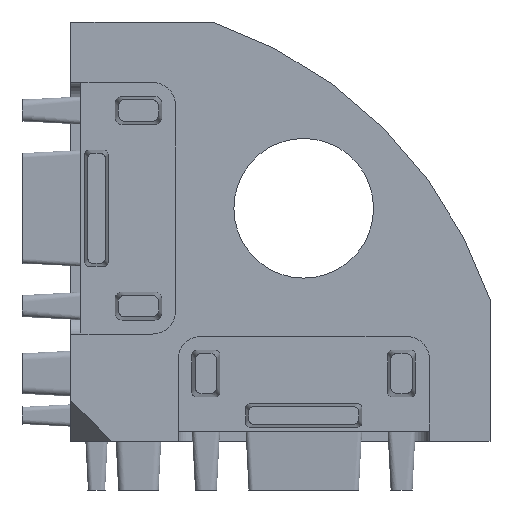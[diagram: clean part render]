
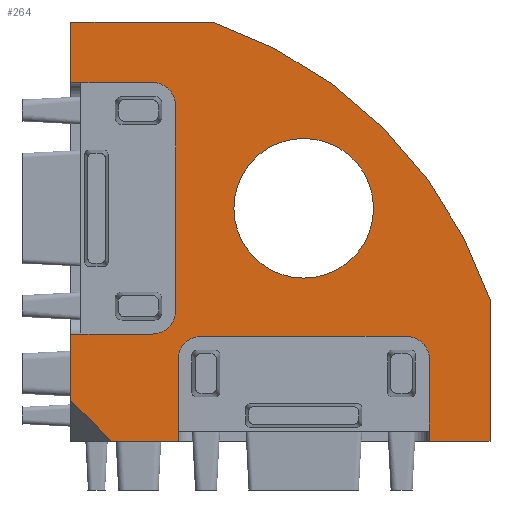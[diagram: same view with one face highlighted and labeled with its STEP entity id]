
A CAD part, front view. The second image highlights one B-rep face of the part: STEP entity #264.
In plain terms, the highlighted planar face has unit normal (0, -1, 0).
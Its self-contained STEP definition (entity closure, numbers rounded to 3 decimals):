
#264 = ADVANCED_FACE( '', ( #574, #575 ), #576, .F. );
#574 = FACE_BOUND( '', #1547, .T. );
#575 = FACE_OUTER_BOUND( '', #1548, .T. );
#576 = PLANE( '', #1549 );
#1547 = EDGE_LOOP( '', ( #2758 ) );
#1548 = EDGE_LOOP( '', ( #2759, #2760, #2761, #2762, #2763, #2764, #2765, #2766, #2767, #2768, #2769, #2770, #2771, #2772, #2773, #2774, #2775, #2776 ) );
#1549 = AXIS2_PLACEMENT_3D( '', #2777, #2778, #2779 );
#2758 = ORIENTED_EDGE( '', *, *, #3420, .T. );
#2759 = ORIENTED_EDGE( '', *, *, #2968, .T. );
#2760 = ORIENTED_EDGE( '', *, *, #3112, .T. );
#2761 = ORIENTED_EDGE( '', *, *, #3374, .T. );
#2762 = ORIENTED_EDGE( '', *, *, #3317, .T. );
#2763 = ORIENTED_EDGE( '', *, *, #3466, .T. );
#2764 = ORIENTED_EDGE( '', *, *, #3089, .T. );
#2765 = ORIENTED_EDGE( '', *, *, #3372, .T. );
#2766 = ORIENTED_EDGE( '', *, *, #3106, .T. );
#2767 = ORIENTED_EDGE( '', *, *, #3175, .F. );
#2768 = ORIENTED_EDGE( '', *, *, #3468, .F. );
#2769 = ORIENTED_EDGE( '', *, *, #3366, .F. );
#2770 = ORIENTED_EDGE( '', *, *, #3430, .T. );
#2771 = ORIENTED_EDGE( '', *, *, #3146, .F. );
#2772 = ORIENTED_EDGE( '', *, *, #3283, .T. );
#2773 = ORIENTED_EDGE( '', *, *, #3300, .T. );
#2774 = ORIENTED_EDGE( '', *, *, #3469, .T. );
#2775 = ORIENTED_EDGE( '', *, *, #3189, .T. );
#2776 = ORIENTED_EDGE( '', *, *, #3428, .T. );
#2777 = CARTESIAN_POINT( '', ( 0., 0., 18. ) );
#2778 = DIRECTION( '', ( 0., 1., 0. ) );
#2779 = DIRECTION( '', ( 0., 0., 1. ) );
#2968 = EDGE_CURVE( '', #3504, #3502, #3505, .T. );
#3089 = EDGE_CURVE( '', #3733, #3734, #3735, .T. );
#3106 = EDGE_CURVE( '', #3763, #3761, #3764, .T. );
#3112 = EDGE_CURVE( '', #3502, #3773, #3775, .T. );
#3146 = EDGE_CURVE( '', #3834, #3836, #3837, .T. );
#3175 = EDGE_CURVE( '', #3886, #3761, #3888, .T. );
#3189 = EDGE_CURVE( '', #3913, #3911, #3914, .T. );
#3283 = EDGE_CURVE( '', #3834, #4088, #4089, .T. );
#3300 = EDGE_CURVE( '', #4088, #4117, #4118, .T. );
#3317 = EDGE_CURVE( '', #4145, #4146, #4147, .T. );
#3366 = EDGE_CURVE( '', #4223, #4225, #4226, .T. );
#3372 = EDGE_CURVE( '', #3734, #3763, #4234, .T. );
#3374 = EDGE_CURVE( '', #3773, #4145, #4236, .T. );
#3420 = EDGE_CURVE( '', #4312, #4312, #4313, .T. );
#3428 = EDGE_CURVE( '', #3911, #3504, #4322, .T. );
#3430 = EDGE_CURVE( '', #4223, #3836, #4324, .T. );
#3466 = EDGE_CURVE( '', #4146, #3733, #4378, .T. );
#3468 = EDGE_CURVE( '', #4225, #3886, #4380, .T. );
#3469 = EDGE_CURVE( '', #4117, #3913, #4381, .T. );
#3502 = VERTEX_POINT( '', #4430 );
#3504 = VERTEX_POINT( '', #4433 );
#3505 = LINE( '', #4434, #4435 );
#3733 = VERTEX_POINT( '', #4937 );
#3734 = VERTEX_POINT( '', #4938 );
#3735 = CIRCLE( '', #4939, 1. );
#3761 = VERTEX_POINT( '', #4976 );
#3763 = VERTEX_POINT( '', #4979 );
#3764 = LINE( '', #4980, #4981 );
#3773 = VERTEX_POINT( '', #4992 );
#3775 = LINE( '', #4995, #4996 );
#3834 = VERTEX_POINT( '', #5127 );
#3836 = VERTEX_POINT( '', #5130 );
#3837 = LINE( '', #5131, #5132 );
#3886 = VERTEX_POINT( '', #5240 );
#3888 = LINE( '', #5243, #5244 );
#3911 = VERTEX_POINT( '', #5289 );
#3913 = VERTEX_POINT( '', #5292 );
#3914 = LINE( '', #5293, #5294 );
#4088 = VERTEX_POINT( '', #5689 );
#4089 = CIRCLE( '', #5690, 1. );
#4117 = VERTEX_POINT( '', #5740 );
#4118 = LINE( '', #5741, #5742 );
#4145 = VERTEX_POINT( '', #5803 );
#4146 = VERTEX_POINT( '', #5804 );
#4147 = CIRCLE( '', #5805, 1. );
#4223 = VERTEX_POINT( '', #5966 );
#4225 = VERTEX_POINT( '', #5969 );
#4226 = LINE( '', #5970, #5971 );
#4234 = LINE( '', #5983, #5984 );
#4236 = LINE( '', #5986, #5987 );
#4312 = VERTEX_POINT( '', #6138 );
#4313 = CIRCLE( '', #6139, 3. );
#4322 = LINE( '', #6150, #6151 );
#4324 = LINE( '', #6154, #6155 );
#4378 = LINE( '', #6267, #6268 );
#4380 = CIRCLE( '', #6270, 19. );
#4381 = CIRCLE( '', #6271, 1. );
#4430 = CARTESIAN_POINT( '', ( 1.732, 0., 0. ) );
#4433 = CARTESIAN_POINT( '', ( 0., 0., 1.732 ) );
#4434 = CARTESIAN_POINT( '', ( -0.548, 0., 2.28 ) );
#4435 = VECTOR( '', #6359, 1000. );
#4937 = CARTESIAN_POINT( '', ( 14.4, 0., 4.5 ) );
#4938 = CARTESIAN_POINT( '', ( 15.4, 0., 3.5 ) );
#4939 = AXIS2_PLACEMENT_3D( '', #6403, #6404, #6405 );
#4976 = CARTESIAN_POINT( '', ( 18., 0., 0. ) );
#4979 = CARTESIAN_POINT( '', ( 15.4, 0., 0. ) );
#4980 = CARTESIAN_POINT( '', ( 0., 0., 0. ) );
#4981 = VECTOR( '', #6427, 1000. );
#4992 = CARTESIAN_POINT( '', ( 4.6, 0., 0. ) );
#4995 = CARTESIAN_POINT( '', ( 0., 0., 0. ) );
#4996 = VECTOR( '', #6437, 1000. );
#5127 = CARTESIAN_POINT( '', ( 3.5, 0., 15.4 ) );
#5130 = CARTESIAN_POINT( '', ( 0., 0., 15.4 ) );
#5131 = CARTESIAN_POINT( '', ( 0.4, 0., 15.4 ) );
#5132 = VECTOR( '', #6456, 1000. );
#5240 = CARTESIAN_POINT( '', ( 18., 0., 6.083 ) );
#5243 = CARTESIAN_POINT( '', ( 18., 0., 18. ) );
#5244 = VECTOR( '', #6465, 1000. );
#5289 = CARTESIAN_POINT( '', ( 0., 0., 4.6 ) );
#5292 = CARTESIAN_POINT( '', ( 3.5, 0., 4.6 ) );
#5293 = CARTESIAN_POINT( '', ( 0.4, 0., 4.6 ) );
#5294 = VECTOR( '', #6469, 1000. );
#5689 = CARTESIAN_POINT( '', ( 4.5, 0., 14.4 ) );
#5690 = AXIS2_PLACEMENT_3D( '', #6491, #6492, #6493 );
#5740 = CARTESIAN_POINT( '', ( 4.5, 0., 5.6 ) );
#5741 = CARTESIAN_POINT( '', ( 4.5, 0., 14.4 ) );
#5742 = VECTOR( '', #6505, 1000. );
#5803 = CARTESIAN_POINT( '', ( 4.6, 0., 3.5 ) );
#5804 = CARTESIAN_POINT( '', ( 5.6, 0., 4.5 ) );
#5805 = AXIS2_PLACEMENT_3D( '', #6511, #6512, #6513 );
#5966 = CARTESIAN_POINT( '', ( 0., 0., 18. ) );
#5969 = CARTESIAN_POINT( '', ( 6.083, 0., 18. ) );
#5970 = CARTESIAN_POINT( '', ( 0., 0., 18. ) );
#5971 = VECTOR( '', #6533, 1000. );
#5983 = CARTESIAN_POINT( '', ( 15.4, 0., 3.5 ) );
#5984 = VECTOR( '', #6538, 1000. );
#5986 = CARTESIAN_POINT( '', ( 4.6, 0., 0. ) );
#5987 = VECTOR( '', #6539, 1000. );
#6138 = CARTESIAN_POINT( '', ( 13., 0., 10. ) );
#6139 = AXIS2_PLACEMENT_3D( '', #6559, #6560, #6561 );
#6150 = CARTESIAN_POINT( '', ( 0., 0., 18. ) );
#6151 = VECTOR( '', #6570, 1000. );
#6154 = CARTESIAN_POINT( '', ( 0., 0., 18. ) );
#6155 = VECTOR( '', #6572, 1000. );
#6267 = CARTESIAN_POINT( '', ( 5.6, 0., 4.5 ) );
#6268 = VECTOR( '', #6591, 1000. );
#6270 = AXIS2_PLACEMENT_3D( '', #6592, #6593, #6594 );
#6271 = AXIS2_PLACEMENT_3D( '', #6595, #6596, #6597 );
#6359 = DIRECTION( '', ( 0.707, 0., -0.707 ) );
#6403 = CARTESIAN_POINT( '', ( 14.4, 0., 3.5 ) );
#6404 = DIRECTION( '', ( 0., 1., 0. ) );
#6405 = DIRECTION( '', ( 1., 0., 0. ) );
#6427 = DIRECTION( '', ( 1., 0., 0. ) );
#6437 = DIRECTION( '', ( 1., 0., 0. ) );
#6456 = DIRECTION( '', ( -1., 0., 0. ) );
#6465 = DIRECTION( '', ( 0., 0., -1. ) );
#6469 = DIRECTION( '', ( -1., 0., 0. ) );
#6491 = CARTESIAN_POINT( '', ( 3.5, 0., 14.4 ) );
#6492 = DIRECTION( '', ( 0., 1., 0. ) );
#6493 = DIRECTION( '', ( 1., 0., 0. ) );
#6505 = DIRECTION( '', ( 0., 0., -1. ) );
#6511 = CARTESIAN_POINT( '', ( 5.6, 0., 3.5 ) );
#6512 = DIRECTION( '', ( 0., 1., 0. ) );
#6513 = DIRECTION( '', ( 1., 0., 0. ) );
#6533 = DIRECTION( '', ( 1., 0., 0. ) );
#6538 = DIRECTION( '', ( 0., 0., -1. ) );
#6539 = DIRECTION( '', ( 0., 0., 1. ) );
#6559 = CARTESIAN_POINT( '', ( 10., 0., 10. ) );
#6560 = DIRECTION( '', ( 0., 1., 0. ) );
#6561 = DIRECTION( '', ( 1., 0., 0. ) );
#6570 = DIRECTION( '', ( 0., 0., -1. ) );
#6572 = DIRECTION( '', ( 0., 0., -1. ) );
#6591 = DIRECTION( '', ( 1., 0., 0. ) );
#6592 = CARTESIAN_POINT( '', ( 0., 0., 0. ) );
#6593 = DIRECTION( '', ( 0., 1., 0. ) );
#6594 = DIRECTION( '', ( 1., 0., 0. ) );
#6595 = CARTESIAN_POINT( '', ( 3.5, 0., 5.6 ) );
#6596 = DIRECTION( '', ( 0., 1., 0. ) );
#6597 = DIRECTION( '', ( 1., 0., 0. ) );
